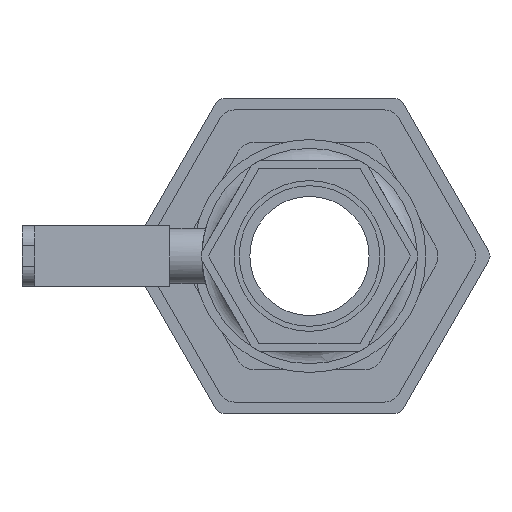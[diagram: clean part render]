
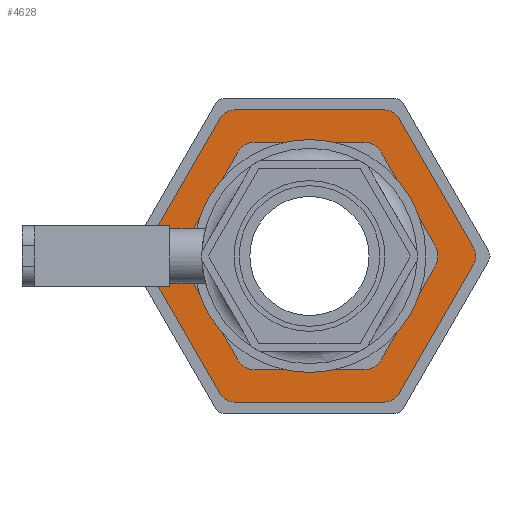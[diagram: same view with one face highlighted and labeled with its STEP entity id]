
A CAD part, left-side view. The second image highlights one B-rep face of the part: STEP entity #4628.
In plain terms, the highlighted planar face has unit normal (-1, 0, 0) as drawn and (1, 0, 0) by its records, which use the part's own axes.
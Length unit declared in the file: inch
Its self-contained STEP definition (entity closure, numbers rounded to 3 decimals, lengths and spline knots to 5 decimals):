
#113=FACE_BOUND('',#746,.T.);
#256=PLANE('',#5236);
#478=FACE_OUTER_BOUND('',#745,.T.);
#745=EDGE_LOOP('',(#3919,#3920,#3921,#3922,#3923,#3924,#3925,#3926,#3927,
#3928,#3929,#3930));
#746=EDGE_LOOP('',(#3931,#3932,#3933,#3934,#3935,#3936,#3937,#3938,#3939,
#3940,#3941,#3942));
#1130=LINE('',#7919,#1523);
#1131=LINE('',#7923,#1524);
#1132=LINE('',#7927,#1525);
#1133=LINE('',#7931,#1526);
#1134=LINE('',#7935,#1527);
#1135=LINE('',#7939,#1528);
#1136=LINE('',#7945,#1529);
#1137=LINE('',#7949,#1530);
#1138=LINE('',#7953,#1531);
#1139=LINE('',#7957,#1532);
#1140=LINE('',#7961,#1533);
#1141=LINE('',#7964,#1534);
#1523=VECTOR('',#6473,0.3937);
#1524=VECTOR('',#6476,0.3937);
#1525=VECTOR('',#6479,0.3937);
#1526=VECTOR('',#6482,0.3937);
#1527=VECTOR('',#6485,0.3937);
#1528=VECTOR('',#6488,0.3937);
#1529=VECTOR('',#6493,0.3937);
#1530=VECTOR('',#6496,0.3937);
#1531=VECTOR('',#6499,0.3937);
#1532=VECTOR('',#6502,0.3937);
#1533=VECTOR('',#6505,0.3937);
#1534=VECTOR('',#6508,0.3937);
#1763=CIRCLE('',#5237,0.1);
#1764=CIRCLE('',#5238,0.1);
#1765=CIRCLE('',#5239,0.1);
#1766=CIRCLE('',#5240,0.1);
#1767=CIRCLE('',#5241,0.1);
#1768=CIRCLE('',#5242,0.1);
#1769=CIRCLE('',#5243,0.125);
#1770=CIRCLE('',#5244,0.125);
#1771=CIRCLE('',#5245,0.125);
#1772=CIRCLE('',#5246,0.125);
#1773=CIRCLE('',#5247,0.125);
#1774=CIRCLE('',#5248,0.125);
#2170=VERTEX_POINT('',#7917);
#2171=VERTEX_POINT('',#7918);
#2172=VERTEX_POINT('',#7920);
#2173=VERTEX_POINT('',#7922);
#2174=VERTEX_POINT('',#7924);
#2175=VERTEX_POINT('',#7926);
#2176=VERTEX_POINT('',#7928);
#2177=VERTEX_POINT('',#7930);
#2178=VERTEX_POINT('',#7932);
#2179=VERTEX_POINT('',#7934);
#2180=VERTEX_POINT('',#7936);
#2181=VERTEX_POINT('',#7938);
#2182=VERTEX_POINT('',#7941);
#2183=VERTEX_POINT('',#7942);
#2184=VERTEX_POINT('',#7944);
#2185=VERTEX_POINT('',#7946);
#2186=VERTEX_POINT('',#7948);
#2187=VERTEX_POINT('',#7950);
#2188=VERTEX_POINT('',#7952);
#2189=VERTEX_POINT('',#7954);
#2190=VERTEX_POINT('',#7956);
#2191=VERTEX_POINT('',#7958);
#2192=VERTEX_POINT('',#7960);
#2193=VERTEX_POINT('',#7962);
#2770=EDGE_CURVE('',#2170,#2171,#1130,.T.);
#2771=EDGE_CURVE('',#2171,#2172,#1763,.T.);
#2772=EDGE_CURVE('',#2172,#2173,#1131,.T.);
#2773=EDGE_CURVE('',#2173,#2174,#1764,.T.);
#2774=EDGE_CURVE('',#2174,#2175,#1132,.T.);
#2775=EDGE_CURVE('',#2175,#2176,#1765,.T.);
#2776=EDGE_CURVE('',#2176,#2177,#1133,.T.);
#2777=EDGE_CURVE('',#2177,#2178,#1766,.T.);
#2778=EDGE_CURVE('',#2178,#2179,#1134,.T.);
#2779=EDGE_CURVE('',#2179,#2180,#1767,.T.);
#2780=EDGE_CURVE('',#2180,#2181,#1135,.T.);
#2781=EDGE_CURVE('',#2181,#2170,#1768,.T.);
#2782=EDGE_CURVE('',#2182,#2183,#1769,.T.);
#2783=EDGE_CURVE('',#2183,#2184,#1136,.T.);
#2784=EDGE_CURVE('',#2184,#2185,#1770,.T.);
#2785=EDGE_CURVE('',#2185,#2186,#1137,.T.);
#2786=EDGE_CURVE('',#2186,#2187,#1771,.T.);
#2787=EDGE_CURVE('',#2187,#2188,#1138,.T.);
#2788=EDGE_CURVE('',#2188,#2189,#1772,.T.);
#2789=EDGE_CURVE('',#2189,#2190,#1139,.T.);
#2790=EDGE_CURVE('',#2190,#2191,#1773,.T.);
#2791=EDGE_CURVE('',#2191,#2192,#1140,.T.);
#2792=EDGE_CURVE('',#2192,#2193,#1774,.T.);
#2793=EDGE_CURVE('',#2193,#2182,#1141,.T.);
#3919=ORIENTED_EDGE('',*,*,#2770,.T.);
#3920=ORIENTED_EDGE('',*,*,#2771,.T.);
#3921=ORIENTED_EDGE('',*,*,#2772,.T.);
#3922=ORIENTED_EDGE('',*,*,#2773,.T.);
#3923=ORIENTED_EDGE('',*,*,#2774,.T.);
#3924=ORIENTED_EDGE('',*,*,#2775,.T.);
#3925=ORIENTED_EDGE('',*,*,#2776,.T.);
#3926=ORIENTED_EDGE('',*,*,#2777,.T.);
#3927=ORIENTED_EDGE('',*,*,#2778,.T.);
#3928=ORIENTED_EDGE('',*,*,#2779,.T.);
#3929=ORIENTED_EDGE('',*,*,#2780,.T.);
#3930=ORIENTED_EDGE('',*,*,#2781,.T.);
#3931=ORIENTED_EDGE('',*,*,#2782,.T.);
#3932=ORIENTED_EDGE('',*,*,#2783,.T.);
#3933=ORIENTED_EDGE('',*,*,#2784,.T.);
#3934=ORIENTED_EDGE('',*,*,#2785,.T.);
#3935=ORIENTED_EDGE('',*,*,#2786,.T.);
#3936=ORIENTED_EDGE('',*,*,#2787,.T.);
#3937=ORIENTED_EDGE('',*,*,#2788,.T.);
#3938=ORIENTED_EDGE('',*,*,#2789,.T.);
#3939=ORIENTED_EDGE('',*,*,#2790,.T.);
#3940=ORIENTED_EDGE('',*,*,#2791,.T.);
#3941=ORIENTED_EDGE('',*,*,#2792,.T.);
#3942=ORIENTED_EDGE('',*,*,#2793,.T.);
#4628=ADVANCED_FACE('',(#478,#113),#256,.F.);
#5236=AXIS2_PLACEMENT_3D('',#7916,#6471,#6472);
#5237=AXIS2_PLACEMENT_3D('',#7921,#6474,#6475);
#5238=AXIS2_PLACEMENT_3D('',#7925,#6477,#6478);
#5239=AXIS2_PLACEMENT_3D('',#7929,#6480,#6481);
#5240=AXIS2_PLACEMENT_3D('',#7933,#6483,#6484);
#5241=AXIS2_PLACEMENT_3D('',#7937,#6486,#6487);
#5242=AXIS2_PLACEMENT_3D('',#7940,#6489,#6490);
#5243=AXIS2_PLACEMENT_3D('',#7943,#6491,#6492);
#5244=AXIS2_PLACEMENT_3D('',#7947,#6494,#6495);
#5245=AXIS2_PLACEMENT_3D('',#7951,#6497,#6498);
#5246=AXIS2_PLACEMENT_3D('',#7955,#6500,#6501);
#5247=AXIS2_PLACEMENT_3D('',#7959,#6503,#6504);
#5248=AXIS2_PLACEMENT_3D('',#7963,#6506,#6507);
#6471=DIRECTION('center_axis',(-1.,0.,0.));
#6472=DIRECTION('ref_axis',(0.,0.,1.));
#6473=DIRECTION('',(0.,-0.5,0.866));
#6474=DIRECTION('center_axis',(1.,0.,0.));
#6475=DIRECTION('ref_axis',(0.,0.,-1.));
#6476=DIRECTION('',(0.,-1.,0.));
#6477=DIRECTION('center_axis',(1.,0.,0.));
#6478=DIRECTION('ref_axis',(0.,0.866,-0.5));
#6479=DIRECTION('',(0.,-0.5,-0.866));
#6480=DIRECTION('center_axis',(1.,0.,0.));
#6481=DIRECTION('ref_axis',(0.,0.866,0.5));
#6482=DIRECTION('',(0.,0.5,-0.866));
#6483=DIRECTION('center_axis',(1.,0.,0.));
#6484=DIRECTION('ref_axis',(0.,0.,1.));
#6485=DIRECTION('',(0.,1.,0.));
#6486=DIRECTION('center_axis',(1.,0.,0.));
#6487=DIRECTION('ref_axis',(0.,-0.866,0.5));
#6488=DIRECTION('',(0.,0.5,0.866));
#6489=DIRECTION('center_axis',(1.,0.,0.));
#6490=DIRECTION('ref_axis',(0.,-0.866,-0.5));
#6491=DIRECTION('center_axis',(-1.,0.,0.));
#6492=DIRECTION('ref_axis',(0.,-0.866,0.5));
#6493=DIRECTION('',(0.,-0.5,-0.866));
#6494=DIRECTION('center_axis',(-1.,0.,0.));
#6495=DIRECTION('ref_axis',(0.,0.,1.));
#6496=DIRECTION('',(0.,-1.,0.));
#6497=DIRECTION('center_axis',(-1.,0.,0.));
#6498=DIRECTION('ref_axis',(0.,0.866,0.5));
#6499=DIRECTION('',(0.,-0.5,0.866));
#6500=DIRECTION('center_axis',(-1.,0.,0.));
#6501=DIRECTION('ref_axis',(0.,0.866,-0.5));
#6502=DIRECTION('',(0.,0.5,0.866));
#6503=DIRECTION('center_axis',(-1.,0.,0.));
#6504=DIRECTION('ref_axis',(0.,0.,-1.));
#6505=DIRECTION('',(0.,1.,0.));
#6506=DIRECTION('center_axis',(-1.,0.,0.));
#6507=DIRECTION('ref_axis',(0.,-0.866,-0.5));
#6508=DIRECTION('',(0.,0.5,-0.866));
#7916=CARTESIAN_POINT('Origin',(1.275,0.,0.));
#7917=CARTESIAN_POINT('',(1.275,1.02141,0.05));
#7918=CARTESIAN_POINT('',(1.275,0.55401,0.85957));
#7919=CARTESIAN_POINT('',(1.275,1.02141,0.05));
#7920=CARTESIAN_POINT('',(1.275,0.4674,0.90957));
#7921=CARTESIAN_POINT('Origin',(1.275,0.4674,0.80957));
#7922=CARTESIAN_POINT('',(1.275,-0.4674,0.90957));
#7923=CARTESIAN_POINT('',(1.275,0.4674,0.90957));
#7924=CARTESIAN_POINT('',(1.275,-0.55401,0.85957));
#7925=CARTESIAN_POINT('Origin',(1.275,-0.4674,0.80957));
#7926=CARTESIAN_POINT('',(1.275,-1.02141,0.05));
#7927=CARTESIAN_POINT('',(1.275,-0.55401,0.85957));
#7928=CARTESIAN_POINT('',(1.275,-1.02141,-0.05));
#7929=CARTESIAN_POINT('Origin',(1.275,-0.93481,0.));
#7930=CARTESIAN_POINT('',(1.275,-0.55401,-0.85957));
#7931=CARTESIAN_POINT('',(1.275,-1.02141,-0.05));
#7932=CARTESIAN_POINT('',(1.275,-0.4674,-0.90957));
#7933=CARTESIAN_POINT('Origin',(1.275,-0.4674,-0.80957));
#7934=CARTESIAN_POINT('',(1.275,0.4674,-0.90957));
#7935=CARTESIAN_POINT('',(1.275,-0.4674,-0.90957));
#7936=CARTESIAN_POINT('',(1.275,0.55401,-0.85957));
#7937=CARTESIAN_POINT('Origin',(1.275,0.4674,-0.80957));
#7938=CARTESIAN_POINT('',(1.275,1.02141,-0.05));
#7939=CARTESIAN_POINT('',(1.275,0.55401,-0.85957));
#7940=CARTESIAN_POINT('Origin',(1.275,0.93481,0.));
#7941=CARTESIAN_POINT('',(1.275,0.78325,0.0625));
#7942=CARTESIAN_POINT('',(1.275,0.78325,-0.0625));
#7943=CARTESIAN_POINT('Origin',(1.275,0.675,0.));
#7944=CARTESIAN_POINT('',(1.275,0.44575,-0.64707));
#7945=CARTESIAN_POINT('',(1.275,0.78325,-0.0625));
#7946=CARTESIAN_POINT('',(1.275,0.3375,-0.70957));
#7947=CARTESIAN_POINT('Origin',(1.275,0.3375,-0.58457));
#7948=CARTESIAN_POINT('',(1.275,-0.3375,-0.70957));
#7949=CARTESIAN_POINT('',(1.275,0.3375,-0.70957));
#7950=CARTESIAN_POINT('',(1.275,-0.44575,-0.64707));
#7951=CARTESIAN_POINT('Origin',(1.275,-0.3375,-0.58457));
#7952=CARTESIAN_POINT('',(1.275,-0.78325,-0.0625));
#7953=CARTESIAN_POINT('',(1.275,-0.44575,-0.64707));
#7954=CARTESIAN_POINT('',(1.275,-0.78325,0.0625));
#7955=CARTESIAN_POINT('Origin',(1.275,-0.675,0.));
#7956=CARTESIAN_POINT('',(1.275,-0.44575,0.64707));
#7957=CARTESIAN_POINT('',(1.275,-0.78325,0.0625));
#7958=CARTESIAN_POINT('',(1.275,-0.3375,0.70957));
#7959=CARTESIAN_POINT('Origin',(1.275,-0.3375,0.58457));
#7960=CARTESIAN_POINT('',(1.275,0.3375,0.70957));
#7961=CARTESIAN_POINT('',(1.275,-0.3375,0.70957));
#7962=CARTESIAN_POINT('',(1.275,0.44575,0.64707));
#7963=CARTESIAN_POINT('Origin',(1.275,0.3375,0.58457));
#7964=CARTESIAN_POINT('',(1.275,0.44575,0.64707));
